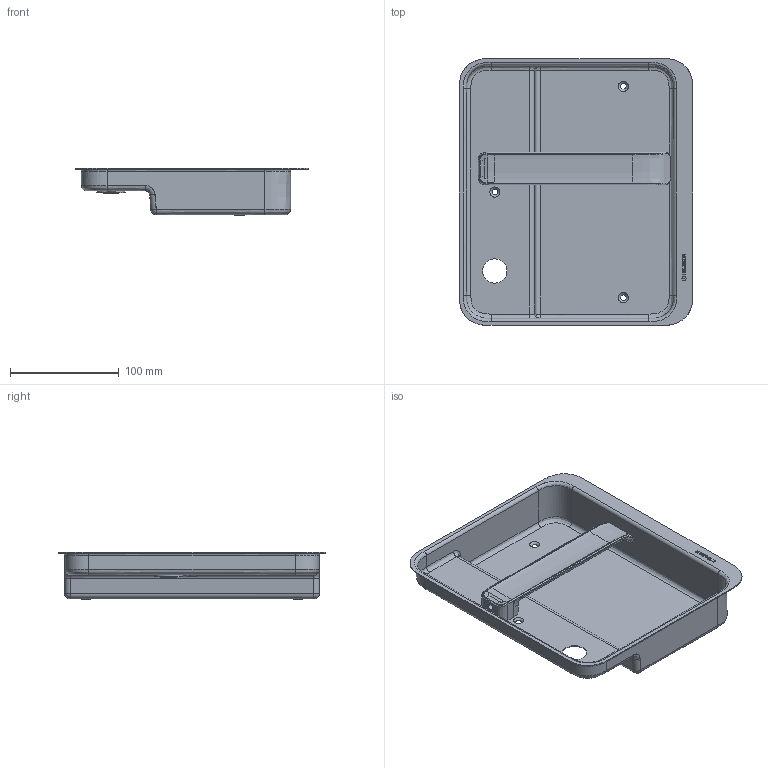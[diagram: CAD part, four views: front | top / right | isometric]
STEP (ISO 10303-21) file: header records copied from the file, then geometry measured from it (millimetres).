
FILE_DESCRIPTION(/* description */ (''),/* implementation_level */ '2;1');
FILE_NAME(/* name */ 'M:\LOC Heusser-Muscheln\Muschel Serie 9\Muschel Serie 9 EN179\Heusser-Muschel S9.42.D3.294R.stp',/* time_stamp */ '2020-10-07T11:28:34+02:00',/* author */ ('gm'),/* organization */ (''),/* preprocessor_version */ 'ST-DEVELOPER v16.5',/* originating_system */ 'Autodesk Inventor 2017',/* authorisation */ '');
FILE_SCHEMA (('AUTOMOTIVE_DESIGN { 1 0 10303 214 3 1 1 }'));
Length unit declared in the file: millimetre
Products named in the file (1): S9.42.D3.274R
Bounding box: 214 x 245 x 44 mm (x, y, z)
Volume: 114563.4 mm3; surface area: 177051.2 mm2
Topology: 1 solids, 2 shells, 352 faces, 906 edges, 580 vertices
Faces by surface type: bspline 180, plane 135, cylinder 21, cone 16
Full cylindrical faces by diameter (mm): 1.7 x2, 14.2 x1, 16 x3, 18 x1, 19 x1, 19.1 x1, 22.3 x1, 23 x1, 23.2 x1, 24 x1, 25 x1, 26 x1, 28 x1
Entity records: 21541 total; most frequent: CARTESIAN_POINT 13852, ORIENTED_EDGE 1728, DIRECTION 989, EDGE_CURVE 864, VERTEX_POINT 574, LINE 433, VECTOR 433, EDGE_LOOP 430
